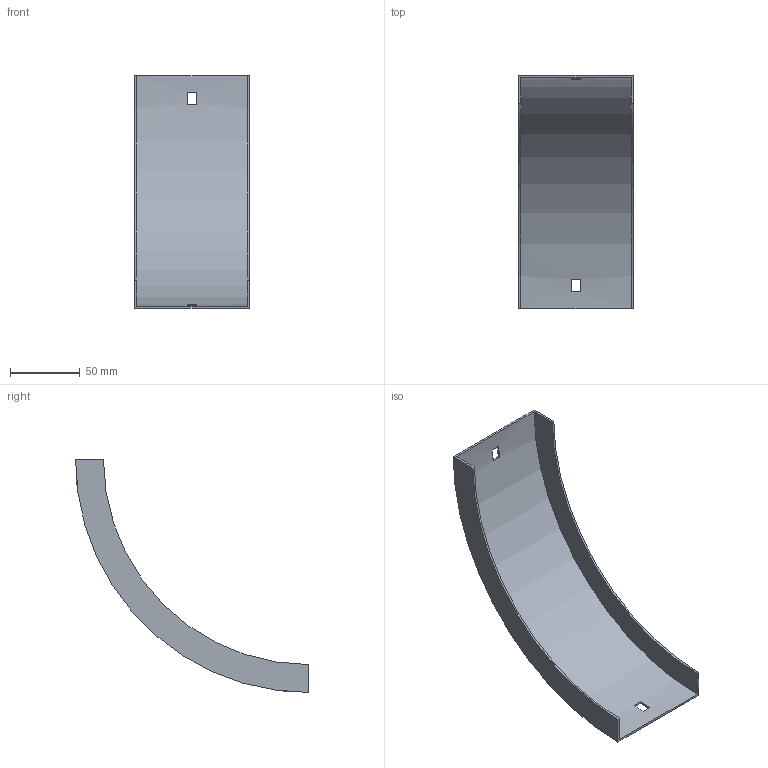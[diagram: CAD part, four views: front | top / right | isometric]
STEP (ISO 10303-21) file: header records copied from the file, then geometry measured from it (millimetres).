
FILE_DESCRIPTION (( 'STEP AP214' ), '1' );
FILE_NAME ('33N1H075.step', '2025-02-21T09:18:25', ( '' ), ( '' ), 'SwSTEP 2.0', 'SolidWorks 2023', '' );
FILE_SCHEMA (( 'AUTOMOTIVE_DESIGN' ));
Length unit declared in the file: millimetre
Products named in the file (1): 33N1H075
Bounding box: 82 x 167 x 167 mm (x, y, z)
Volume: 45566.2 mm3; surface area: 61901.6 mm2
Topology: 1 solids, 1 shells, 18 faces, 48 edges, 32 vertices
Faces by surface type: plane 14, cylinder 4
Entity records: 599 total; most frequent: DIRECTION 102, CARTESIAN_POINT 99, ORIENTED_EDGE 96, EDGE_CURVE 48, AXIS2_PLACEMENT_3D 35, LINE 32, VECTOR 32, VERTEX_POINT 32
